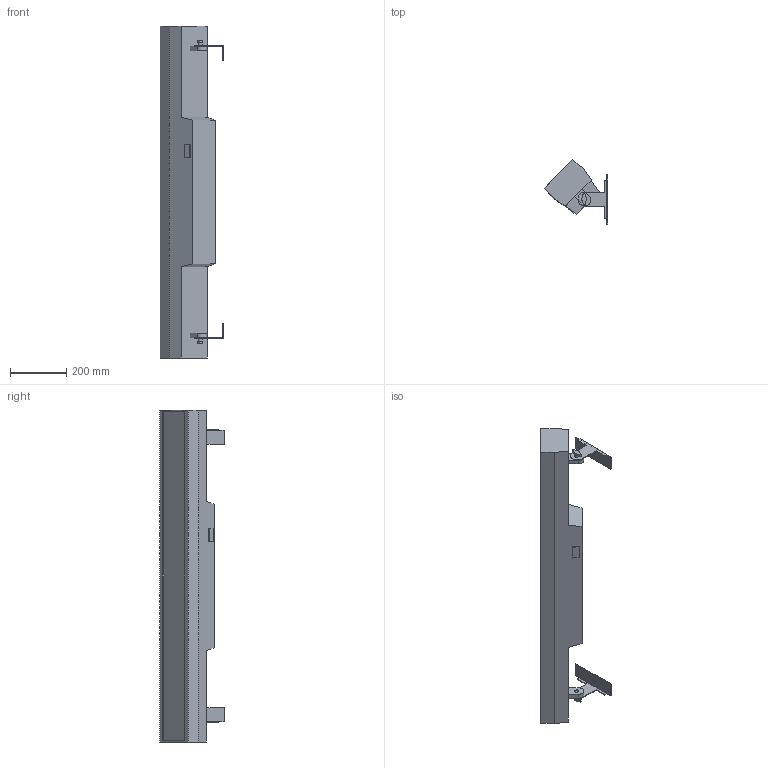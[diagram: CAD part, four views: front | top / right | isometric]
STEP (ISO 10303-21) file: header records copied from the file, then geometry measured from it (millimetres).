
FILE_DESCRIPTION(/* description */ (''),/* implementation_level */ '2;1');
FILE_NAME(/* name */ 'COLORado Solo Bar 4_45_3D.stp',/* time_stamp */ '2024-04-30T10:44:25-04:00',/* author */ ('dgooch'),/* organization */ (''),/* preprocessor_version */ 'ST-DEVELOPER v20',/* originating_system */ 'Autodesk Inventor 2024',/* authorisation */ '');
FILE_SCHEMA (('AUTOMOTIVE_DESIGN { 1 0 10303 214 3 1 1 }'));
Length unit declared in the file: millimetre
Products named in the file (4): COLORado Solo Bar 4_0; Bracket_1; Bracket 2; Main
Assembly tree (3 placements, depth 2):
  COLORado Solo Bar 4_0
    Bracket_1
    Bracket 2
    Main
Bounding box: 226.63 x 230.23 x 1184.1 mm (x, y, z)
Volume: 19308784.4 mm3; surface area: 733133.4 mm2
Topology: 3 solids, 3 shells, 98 faces, 236 edges, 156 vertices
Faces by surface type: plane 76, cylinder 14, cone 4, bspline 4
Full cylindrical faces by diameter (mm): 13 x2, 14 x6
Entity records: 6010 total; most frequent: CARTESIAN_POINT 3539, ORIENTED_EDGE 472, DIRECTION 458, EDGE_CURVE 236, LINE 184, VECTOR 184, VERTEX_POINT 156, AXIS2_PLACEMENT_3D 137
